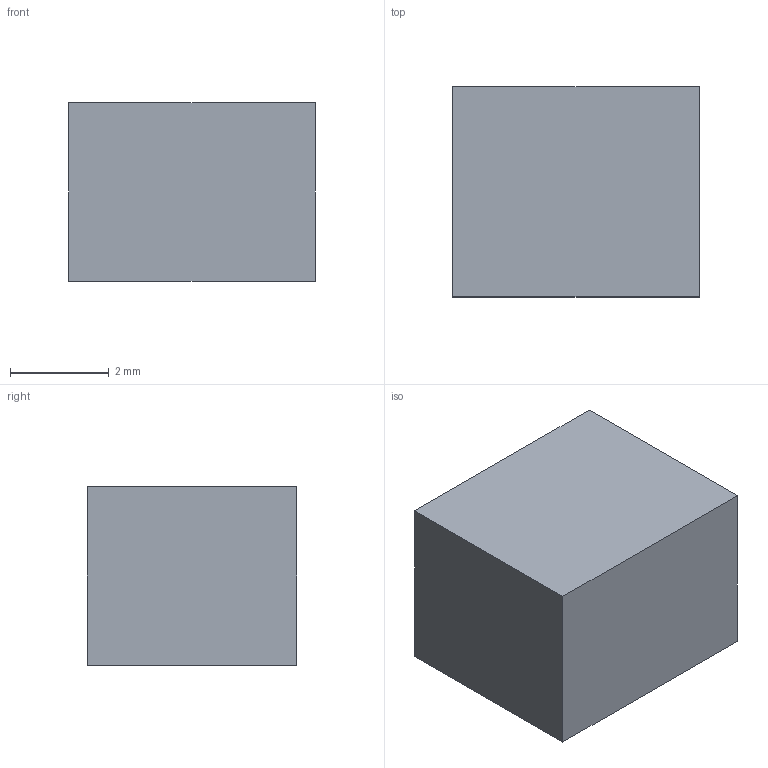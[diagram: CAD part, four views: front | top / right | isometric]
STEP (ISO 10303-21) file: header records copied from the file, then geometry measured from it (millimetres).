
FILE_DESCRIPTION(('Open CASCADE Model'),'2;1');
FILE_NAME('Open CASCADE Shape Model','2026-08-18T10:55:10',('Author'),( 'Open CASCADE'),'Open CASCADE STEP processor 7.9','Open CASCADE 7.9' ,'Unknown');
FILE_SCHEMA(('AUTOMOTIVE_DESIGN { 1 0 10303 214 1 1 1 1 }'));
Length unit declared in the file: millimetre
Products named in the file (1): uart_connector
Bounding box: 5 x 4.25 x 3.61 mm (x, y, z)
Volume: 76.7 mm3; surface area: 109.3 mm2
Topology: 1 solids, 1 shells, 6 faces, 12 edges, 8 vertices
Faces by surface type: plane 6
Entity records: 322 total; most frequent: CARTESIAN_POINT 51, DIRECTION 50, LINE 36, VECTOR 36, ORIENTED_EDGE 24, PCURVE 24, DEFINITIONAL_REPRESENTATION 24, EDGE_CURVE 12
